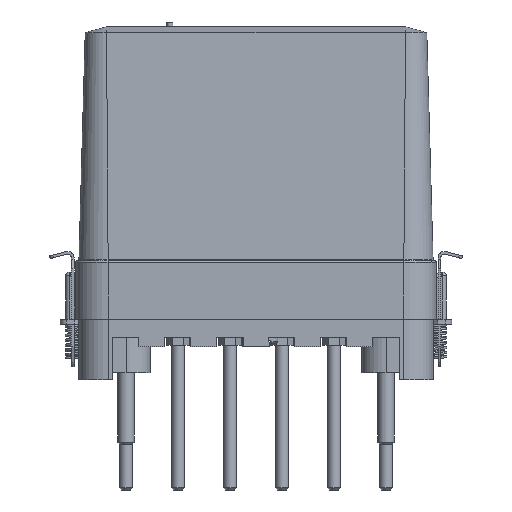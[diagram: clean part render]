
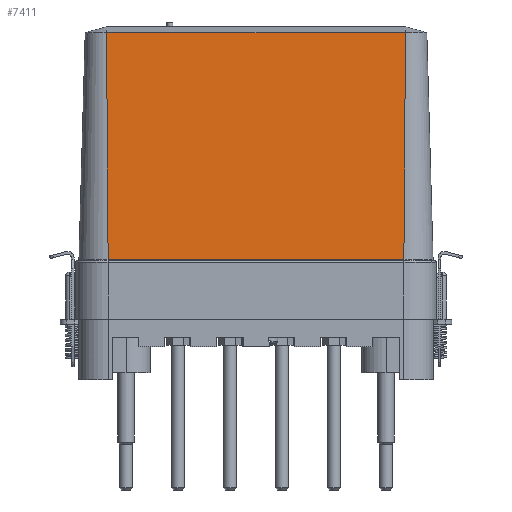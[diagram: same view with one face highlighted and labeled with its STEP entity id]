
A CAD part, left-side view. The second image highlights one B-rep face of the part: STEP entity #7411.
In plain terms, the highlighted planar face has unit normal (-1, 0, 0.028).
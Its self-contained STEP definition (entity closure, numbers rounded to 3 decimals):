
#7411=ADVANCED_FACE('',(#23589),#23591,.T.);
#23589=FACE_BOUND('',#23590,.T.);
#23590=EDGE_LOOP('',(#28481,#28482,#28483,#28484));
#23591=PLANE('',#23592);
#23592=AXIS2_PLACEMENT_3D('',#23593,#23594,#23595);
#23593=CARTESIAN_POINT('',(-30.,-46.,108.5));
#23594=DIRECTION('',(-1.,0.,0.028));
#23595=DIRECTION('',(0.,1.,0.));
#28481=ORIENTED_EDGE('',*,*,#30787,.T.);
#28482=ORIENTED_EDGE('',*,*,#30867,.F.);
#28483=ORIENTED_EDGE('',*,*,#30868,.T.);
#28484=ORIENTED_EDGE('',*,*,#30869,.T.);
#30787=EDGE_CURVE('',#34420,#34417,#34421,.T.);
#30867=EDGE_CURVE('',#34555,#34417,#34557,.T.);
#30868=EDGE_CURVE('',#34555,#34558,#34559,.T.);
#30869=EDGE_CURVE('',#34558,#34420,#34560,.T.);
#34417=VERTEX_POINT('',#44668);
#34420=VERTEX_POINT('',#44690);
#34421=LINE('',#44691,#44692);
#34555=VERTEX_POINT('',#45134);
#34557=LINE('',#45153,#45154);
#34558=VERTEX_POINT('',#45156);
#34559=LINE('',#45157,#45158);
#34560=LINE('',#45160,#45161);
#44668=CARTESIAN_POINT('',(-31.986,-45.503,36.986));
#44690=CARTESIAN_POINT('',(-31.986,45.503,36.986));
#44691=CARTESIAN_POINT('',(-31.986,45.503,36.986));
#44692=VECTOR('',#44693,1.);
#44693=DIRECTION('',(0.,-1.,0.));
#45134=CARTESIAN_POINT('',(-30.049,-45.988,106.751));
#45153=CARTESIAN_POINT('',(-30.049,-45.988,106.751));
#45154=VECTOR('',#45155,1.);
#45155=DIRECTION('',(-0.028,0.007,-1.));
#45156=CARTESIAN_POINT('',(-30.049,45.988,106.751));
#45157=CARTESIAN_POINT('',(-30.049,-45.988,106.751));
#45158=VECTOR('',#45159,1.);
#45159=DIRECTION('',(0.,1.,0.));
#45160=CARTESIAN_POINT('',(-30.049,45.988,106.751));
#45161=VECTOR('',#45162,1.);
#45162=DIRECTION('',(-0.028,-0.007,-1.));
